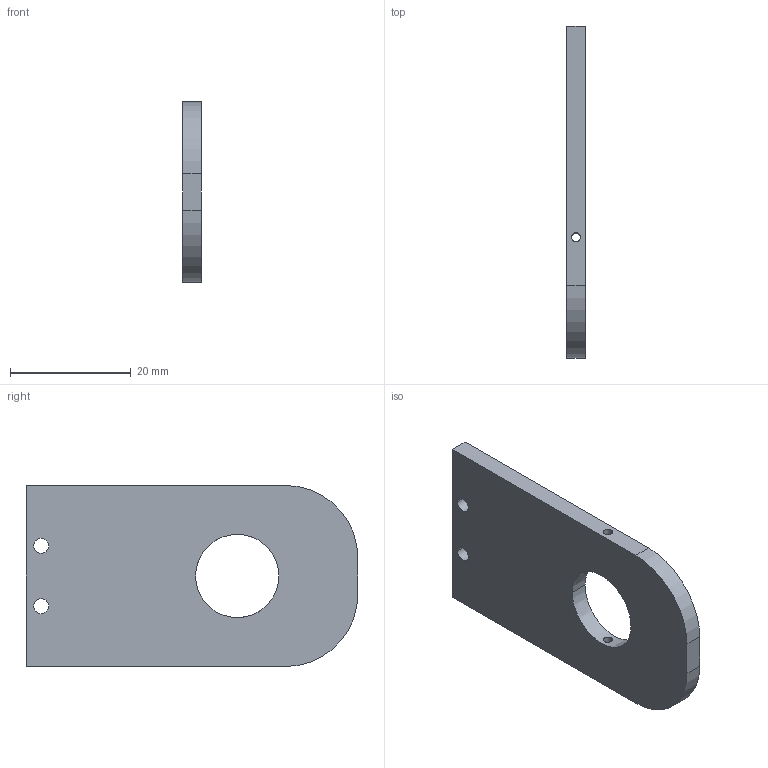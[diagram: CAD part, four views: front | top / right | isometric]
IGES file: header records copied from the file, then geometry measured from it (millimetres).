
Start section: START RECORD GO HERE.
Global section: file name: 12.igs; native system: DASSAULT SYSTEMES CATIA V5 R21 - www.3ds.com; preprocessor: CATIA Version 5 Release 21 ; author: E___; organization: MSI; date: 20160804.135541; units: millimetre
Bounding box: 3 x 55 x 30 mm (x, y, z)
Surface area: 3583.4 mm2 (no closed solid volume)
Topology: 0 solids, 0 shells, 18 faces, 96 edges, 96 vertices
Faces by surface type: revolution 12, plane 6
